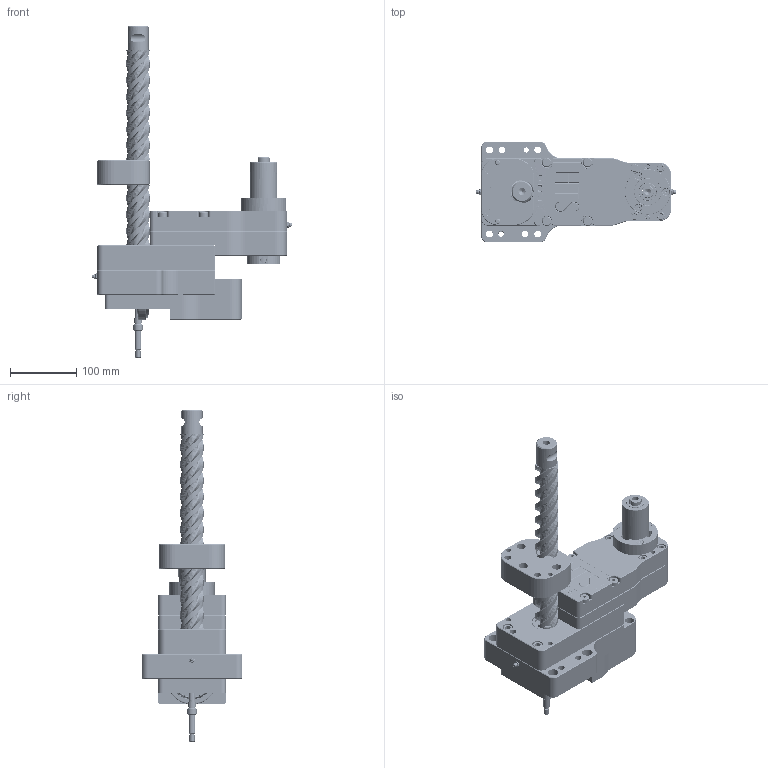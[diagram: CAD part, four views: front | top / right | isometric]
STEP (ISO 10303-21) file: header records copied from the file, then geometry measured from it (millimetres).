
FILE_DESCRIPTION( ( 'Unknown' ), '1' );
FILE_NAME( 'J:/1 Customer Files/HTS/HTS6000 SERIES/simplifiedReps/6000-000.stp', 'Unknown', ( 'Unknown' ), ( 'Unknown' ), 'PSStep 14.0', 'Unknown', ' ' );
FILE_SCHEMA( ( 'AUTOMOTIVE_DESIGN { 1 0 10303 214 1 1 1 1 }' ) );
Length unit declared in the file: millimetre
Products named in the file (38): Assem1; 6011-003; 6023-1_4-20; 6020-013; 6047-000; 6045-000; 6044-000; 6035-000; 6025-000; 6034-000; 6017-000; 6012-000; 6014A-000; 6014B-000; 6018-000; 6016-000; 6022-M8x125; 6006A-000; 6007A-000; 6007B-000; 6008-000; 6021-000; 6019-000; 6028-000; 6036-000; 6006B-000
Bounding box: 302 x 152.4 x 501.65 mm (x, y, z)
Volume: 6112182.3 mm3; surface area: 1054989.3 mm2
Topology: 90 solids, 92 shells, 4200 faces, 12670 edges, 8738 vertices
Faces by surface type: plane 1405, cylinder 1209, cone 776, bspline 608, torus 116, extrusion 56, sphere 30
Full cylindrical faces by diameter (mm): 1.587 x6, 2.381 x8, 3.454 x12, 4.039 x12, 4.178 x108, 4.216 x8, 4.826 x104, 5.004 x2, 5.613 x6, 5.954 x4, 6.172 x5, 6.35 x14, 6.477 x2, 6.528 x26, 6.805 x6, 7.142 x4, 7.805 x4, 7.925 x4, 7.938 x50, 8.733 x12, 8.941 x5, 9.058 x2, 9.525 x41, 9.779 x5, 9.906 x2, 10.317 x12, 10.319 x14, 10.584 x4, 10.719 x4, 11.906 x5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
Entity records: 174357 total; most frequent: CARTESIAN_POINT 119318, ORIENTED_EDGE 9002, DIRECTION 6841, EDGE_CURVE 4501, VERTEX_POINT 3225, AXIS2_PLACEMENT_3D 2704, EDGE_LOOP 2509, FACE_OUTER_BOUND 2065
